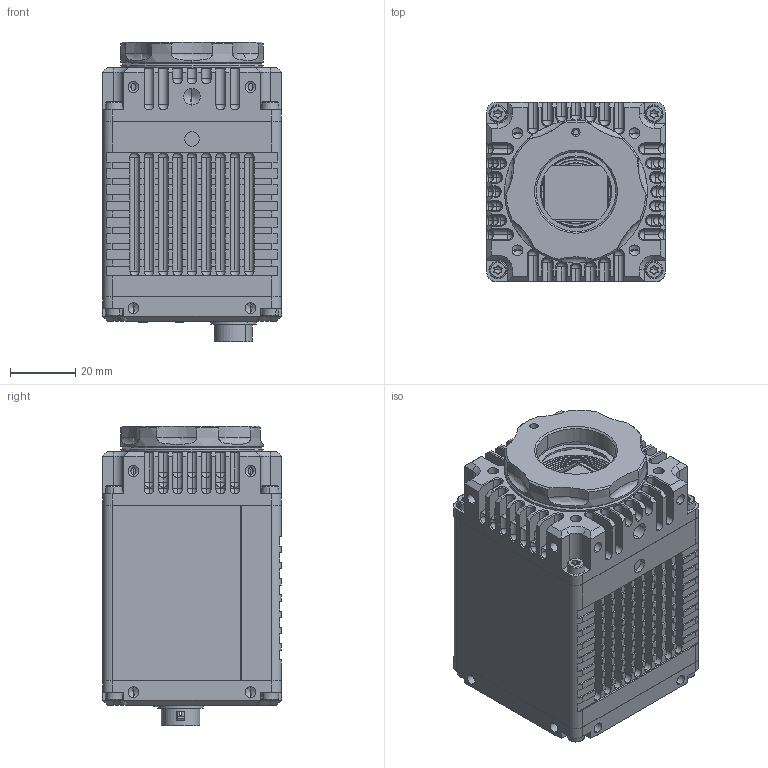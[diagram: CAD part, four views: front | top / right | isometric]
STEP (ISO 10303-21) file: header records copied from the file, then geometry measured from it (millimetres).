
FILE_DESCRIPTION (( 'STEP AP214' ), '1' );
FILE_NAME ('4068040_Goldeye_G-034_SWIR_TEC1_C-Mount_2020-08-24.STEP', '2020-08-24T09:07:38', ( '' ), ( '' ), 'SwSTEP 2.0', 'SolidWorks 2019', '' );
FILE_SCHEMA (( 'AUTOMOTIVE_DESIGN' ));
Length unit declared in the file: millimetre
Products named in the file (25): 4068040_Goldeye_G-034_SWIR_TEC1_C-Mount_2020-08-24; HIROSE-12pol-6kt-Ring; PinB-lang-10J43-1; K7600043_Kabelstecker-12polig-Stift; 1068-101-00_Elektronik-Set_2G_IR_GigE_Step; K5100175_OT-Lichtleiter optical light pipe 1,63mm; Typenschild_20x18; K7500344_Stingray_IO-Board; 3500300013_InGaAs Badger-T FPA0640P15F-17-T1_Step; 5339-2GIR-GIF-PWR_20130405_Step; PinB-kurz-10J43-1; 10681004-01A_Gehaeuseschale_unten_2G_SWIR_640_Step; HIROSE-12pol-Zahnscheibe; TRÄGERFASSUNG-10P40_1; 1068-150-00_Frontflansch_2G_SWIR_Badger_TEC1_Step_1068-150 - Frontflansch 2G SWIR BADGER TEC1; 10681000-02A_Front_Flansch_2G_SWIR_640_Step; 10681005-00C_Gehaeuseschale_oben_2G_SWIR_640_Step; 10681071-00A_M42-C-Mount_Adapter_2G_SWIR_Chunghwa-15um-T1; PINTRÄGER-10P40_1; 1068XXX_M42-C-Mount_Adapter_2G_SWIR_Chunghwa-15um-T1_1450nm_BP-Filter_10681071; ISO 14580 Zylinderschraube ISR niedriger Kopf M3x12; K7510319_IO-Boardl_L4 D4; 1068-100-00_Rückwand_2G_IR_GigE_Step; Pinträger-10J43_2-1; 10681003-01A_Rückwand_2G_SWIR_Step
Assembly tree (41 placements, depth 6):
  4068040_Goldeye_G-034_SWIR_TEC1_C-Mount_2020-08-24
    1068-100-00_Rückwand_2G_IR_GigE_Step
      10681003-01A_Rückwand_2G_SWIR_Step
      K7500344_Stingray_IO-Board
        K7600043_Kabelstecker-12polig-Stift
          PINTRÄGER-10P40_1
            Pinträger-10J43_2-1
            PinB-lang-10J43-1  x3
            PinB-kurz-10J43-1  x9
          TRÄGERFASSUNG-10P40_1
        HIROSE-12pol-Zahnscheibe
        HIROSE-12pol-6kt-Ring
        K7510319_IO-Boardl_L4 D4
      K5100175_OT-Lichtleiter optical light pipe 1,63mm
    1068-101-00_Elektronik-Set_2G_IR_GigE_Step
      10681004-01A_Gehaeuseschale_unten_2G_SWIR_640_Step
      5339-2GIR-GIF-PWR_20130405_Step
    1068-150-00_Frontflansch_2G_SWIR_Badger_TEC1_Step_1068-150 - Frontflansch 2G SWIR BADGER TEC1
      3500300013_InGaAs Badger-T FPA0640P15F-17-T1_Step
      10681000-02A_Front_Flansch_2G_SWIR_640_Step
    1068XXX_M42-C-Mount_Adapter_2G_SWIR_Chunghwa-15um-T1_1450nm_BP-Filter_10681071
      10681071-00A_M42-C-Mount_Adapter_2G_SWIR_Chunghwa-15um-T1
    10681005-00C_Gehaeuseschale_oben_2G_SWIR_640_Step
    ISO 14580 Zylinderschraube ISR niedriger Kopf M3x12  x8
    Typenschild_20x18
Bounding box: 55.01 x 55 x 92.07 mm (x, y, z)
Volume: 208010.5 mm3; surface area: 79343.5 mm2
Topology: 33 solids, 47 shells, 3631 faces, 9724 edges, 6099 vertices
Faces by surface type: plane 1669, cylinder 1160, bspline 385, cone 257, sphere 98, torus 62
Entity records: 131118 total; most frequent: CARTESIAN_POINT 32797, ORIENTED_EDGE 17612, DIRECTION 15817, EDGE_CURVE 8806, LINE 5773, VECTOR 5773, VERTEX_POINT 5644, AXIS2_PLACEMENT_3D 5022
